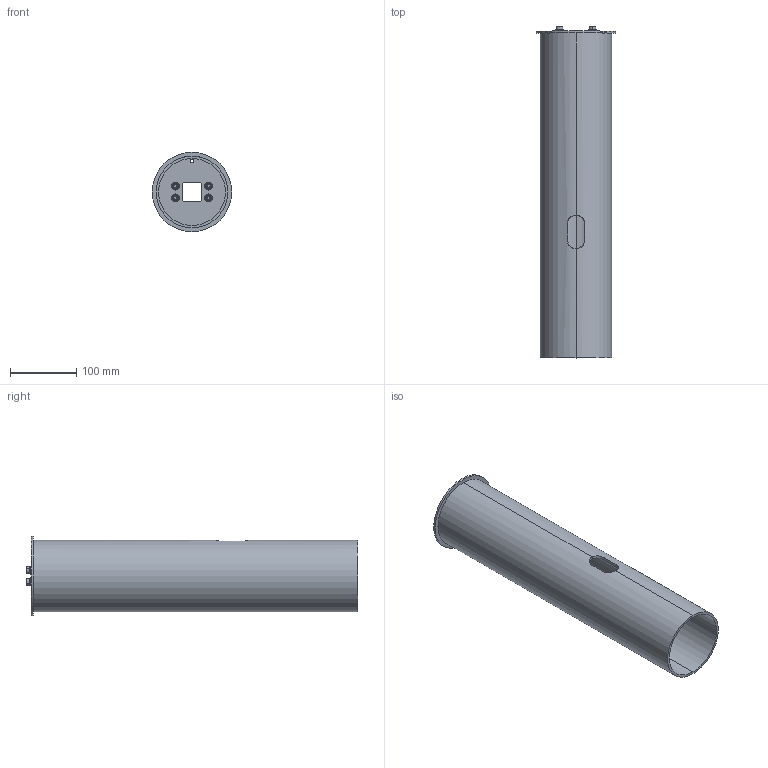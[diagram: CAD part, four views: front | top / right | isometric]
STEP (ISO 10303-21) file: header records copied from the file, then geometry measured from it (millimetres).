
FILE_DESCRIPTION (( 'STEP AP203' ), '1' );
FILE_NAME ('1909.STEP', '2020-07-09T12:27:29', ( '' ), ( '' ), 'SwSTEP 2.0', 'SolidWorks 2019', '' );
FILE_SCHEMA (( 'CONFIG_CONTROL_DESIGN' ));
Length unit declared in the file: millimetre
Products named in the file (7): Art 1909_Rura_rs; 1909; NN Z FAZ･ M6_rs_x3; POD 6,4_rs; GNIAZ_M6x_M6x35; Art 1909_Blacha podst_rs_Obr｢bka W1; Art 1909_Spawanie_rs_art.1909_w1_spawanie
Assembly tree (15 placements, depth 3):
  1909
    Art 1909_Spawanie_rs_art.1909_w1_spawanie
      Art 1909_Rura_rs
      Art 1909_Blacha podst_rs_Obr｢bka W1
    NN Z FAZ･ M6_rs_x3  x4
    POD 6,4_rs  x4
    GNIAZ_M6x_M6x35  x4
Bounding box: 120 x 500.6 x 120 mm (x, y, z)
Volume: 613101.8 mm3; surface area: 352361.5 mm2
Topology: 14 solids, 14 shells, 296 faces, 634 edges, 372 vertices
Faces by surface type: cylinder 96, plane 96, cone 64, torus 40
Entity records: 4253 total; most frequent: CARTESIAN_POINT 715, DIRECTION 610, ORIENTED_EDGE 484, AXIS2_PLACEMENT_3D 250, EDGE_CURVE 242, VERTEX_POINT 147, EDGE_LOOP 129, CIRCLE 124
